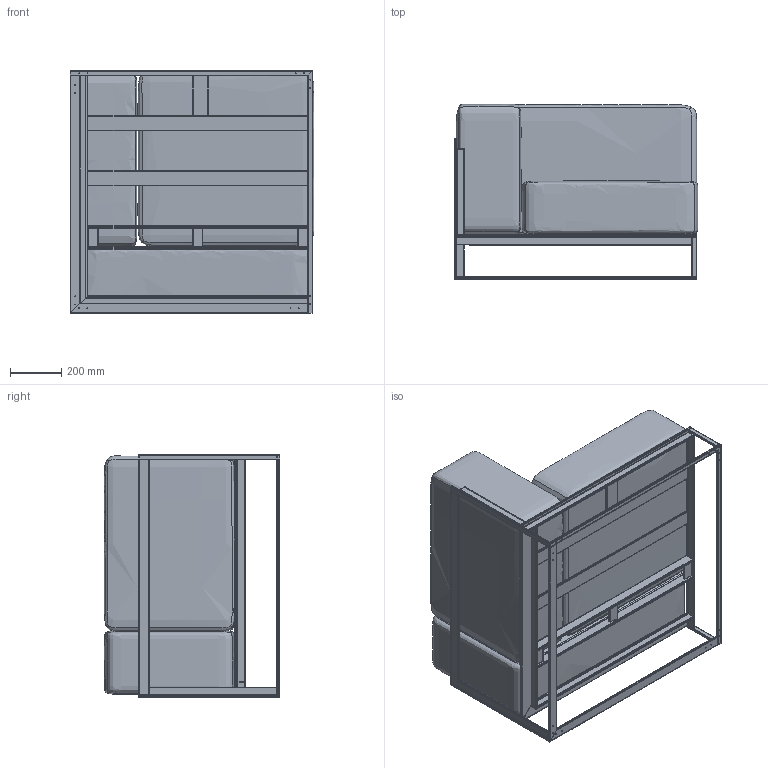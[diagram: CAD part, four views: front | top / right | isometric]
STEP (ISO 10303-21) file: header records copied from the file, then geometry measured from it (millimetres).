
FILE_DESCRIPTION(/* description */ (''),/* implementation_level */ '2;1');
FILE_NAME(/* name */ 'C:\Vault_WF\Designs\RF\Step\Moore Corner.stp',/* time_stamp */ '2021-06-28T08:48:53+02:00',/* author */ ('Röshults'),/* organization */ (''),/* preprocessor_version */ 'ST-DEVELOPER v18.1',/* originating_system */ 'Autodesk Inventor 2021',/* authorisation */ '');
FILE_SCHEMA (('AUTOMOTIVE_DESIGN { 1 0 10303 214 3 1 1 }'));
Length unit declared in the file: millimetre
Products named in the file (37): Assembly2; 100759-3; 100759-4; 100759-5; 100753; Frame 1583759788207; CSN EN 10305-5 - 40 x 10 x 1,5  - 930; CSN EN 10305-5 - 40 x 10 x 1,5  - 930_1; CSN EN 10305-5 - 40 x 10 x 1,5  - 920; CSN EN 10305-5 - 40 x 10 x 1,5  - 930_2; CSN EN 10305-5 - 40 x 10 x 1,5  - 860; CSN EN 10305-5 - 40 x 10 x 1,5  - 860_1; CSN EN 10305-5 - 40 x 10 x 1,5  - 72; CSN EN 10305-5 - 40 x 10 x 1,5  - 72_1; CSN EN 10305-5 - 40 x 10 x 1,5  - 540; CSN EN 10305-5 - 60 x 10 x 1,5  - 920; CSN EN 10305-5 - 60 x 10 x 1,5  - 920_1; CSN EN 10305-5 - 60 x 10 x 1,5  - 860; CSN EN 10305-5 - 60 x 10 x 1,5  - 860_1; CSN EN 10305-5 - 20 x 10 x 1,5  - 538,5; CSN EN 10305-5 - 20 x 10 x 1,5  - 538,5_1; CSN EN 10305-5 - 20 x 10 x 1,5  - 948,5; CSN EN 10305-5 - 20 x 10 x 1,5  - 948,5_1; CSN EN 10305-5 - 20 x 10 x 1,5  - 155; CSN EN 10305-5 - 20 x 10 x 1,5  - 940; CSN EN 10305-5 - 20 x 10 x 1,5  - 940_1; CSN EN 10305-5 - 30 x 10 x 1,5  - 870; CSN EN 10305-5 - 30 x 10 x 1,5  - 920; CSN EN 10305-5 - 30 x 10 x 1,5  - 930; CSN EN 10305-5 - 30 x 10 x 1,5  - 870_1; CSN EN 10305-5 - 30 x 10 x 1,5  - 333,5; CSN EN 10305-5 - 30 x 10 x 1,5  - 333,5_1; CSN EN 10305-5 - 30 x 10 x 1,5  - 500; CSN EN 10305-5 - 60 x 10 x 1,5  - 155; CSN EN 10305-5 - 40 x 10 x 1,5  - 72_2; End Cap 20x10; End Cap 30x10
Assembly tree (40 placements, depth 4):
  Assembly2
    100759-3
    100759-4
    100759-5
    100753
      Frame 1583759788207
        CSN EN 10305-5 - 40 x 10 x 1,5  - 930
        CSN EN 10305-5 - 40 x 10 x 1,5  - 930_1
        CSN EN 10305-5 - 40 x 10 x 1,5  - 920
        CSN EN 10305-5 - 40 x 10 x 1,5  - 930_2
        CSN EN 10305-5 - 40 x 10 x 1,5  - 860
        CSN EN 10305-5 - 40 x 10 x 1,5  - 860_1
        CSN EN 10305-5 - 40 x 10 x 1,5  - 72
        CSN EN 10305-5 - 40 x 10 x 1,5  - 72_1
        CSN EN 10305-5 - 40 x 10 x 1,5  - 540
        CSN EN 10305-5 - 60 x 10 x 1,5  - 920
        CSN EN 10305-5 - 60 x 10 x 1,5  - 920_1
        CSN EN 10305-5 - 60 x 10 x 1,5  - 860
        CSN EN 10305-5 - 60 x 10 x 1,5  - 860_1
        CSN EN 10305-5 - 20 x 10 x 1,5  - 538,5
        CSN EN 10305-5 - 20 x 10 x 1,5  - 538,5_1
        CSN EN 10305-5 - 20 x 10 x 1,5  - 948,5
        CSN EN 10305-5 - 20 x 10 x 1,5  - 948,5_1
        CSN EN 10305-5 - 20 x 10 x 1,5  - 155
        CSN EN 10305-5 - 20 x 10 x 1,5  - 940
        CSN EN 10305-5 - 20 x 10 x 1,5  - 940_1
        CSN EN 10305-5 - 30 x 10 x 1,5  - 870
        CSN EN 10305-5 - 30 x 10 x 1,5  - 920
        CSN EN 10305-5 - 30 x 10 x 1,5  - 930
        CSN EN 10305-5 - 30 x 10 x 1,5  - 870_1
        CSN EN 10305-5 - 30 x 10 x 1,5  - 333,5
        CSN EN 10305-5 - 30 x 10 x 1,5  - 333,5_1
        CSN EN 10305-5 - 30 x 10 x 1,5  - 500
        CSN EN 10305-5 - 60 x 10 x 1,5  - 155
        CSN EN 10305-5 - 40 x 10 x 1,5  - 72_2
      End Cap 20x10  x4
      End Cap 30x10  x2
Bounding box: 954.57 x 685 x 950.76 mm (x, y, z)
Volume: 304806900.9 mm3; surface area: 7526559 mm2
Topology: 38 solids, 38 shells, 624 faces, 1644 edges, 1096 vertices
Faces by surface type: plane 330, cylinder 276, bspline 18
Full cylindrical faces by diameter (mm): 3.242 x16
Entity records: 26848 total; most frequent: CARTESIAN_POINT 10397, DIRECTION 3314, ORIENTED_EDGE 3096, EDGE_CURVE 1548, AXIS2_PLACEMENT_3D 1163, VERTEX_POINT 1032, LINE 988, VECTOR 988
